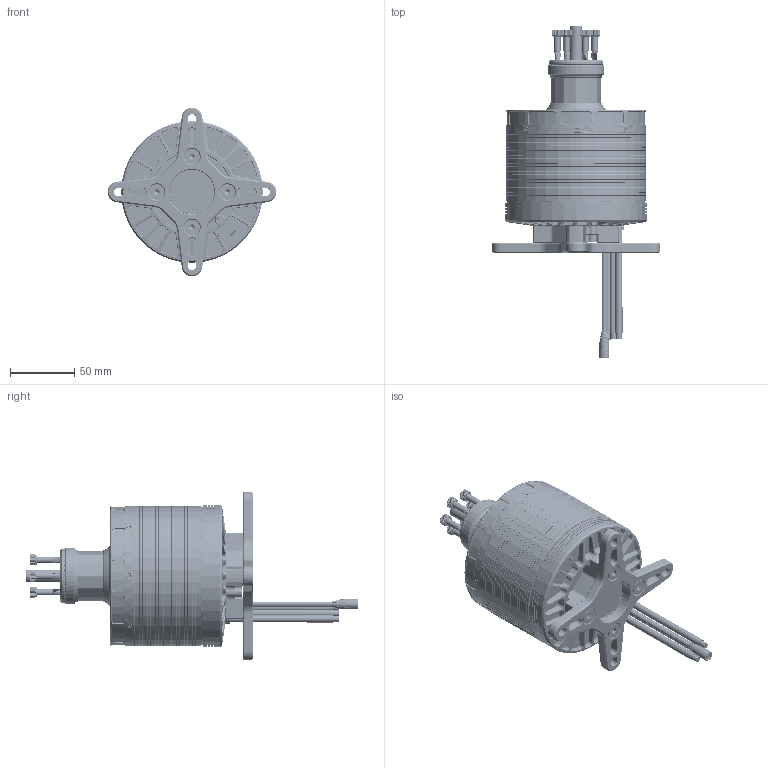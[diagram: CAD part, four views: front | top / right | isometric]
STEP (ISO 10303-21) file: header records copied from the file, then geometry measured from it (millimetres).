
FILE_DESCRIPTION (( 'STEP AP214' ), '1' );
FILE_NAME ('勤俋3D-10050.STEP', '2026-01-06T02:53:17', ( '' ), ( '' ), 'SwSTEP 2.0', 'SolidWorks 2021', '' );
FILE_SCHEMA (( 'AUTOMOTIVE_DESIGN' ));
Length unit declared in the file: millimetre
Products named in the file (1): 勤俋3D-10050
Bounding box: 130.94 x 258.1 x 131 mm (x, y, z)
Volume: 921598.7 mm3; surface area: 126980.2 mm2
Topology: 21 solids, 39 shells, 12137 faces, 32134 edges, 20113 vertices
Faces by surface type: cylinder 3869, plane 3271, bspline 2950, cone 1308, torus 691, sphere 48
Entity records: 617385 total; most frequent: CARTESIAN_POINT 224805, ORIENTED_EDGE 64204, DIRECTION 39180, EDGE_CURVE 32102, VERTEX_POINT 20113, B_SPLINE_CURVE_WITH_KNOTS 16083, AXIS2_PLACEMENT_3D 14714, EDGE_LOOP 12395
